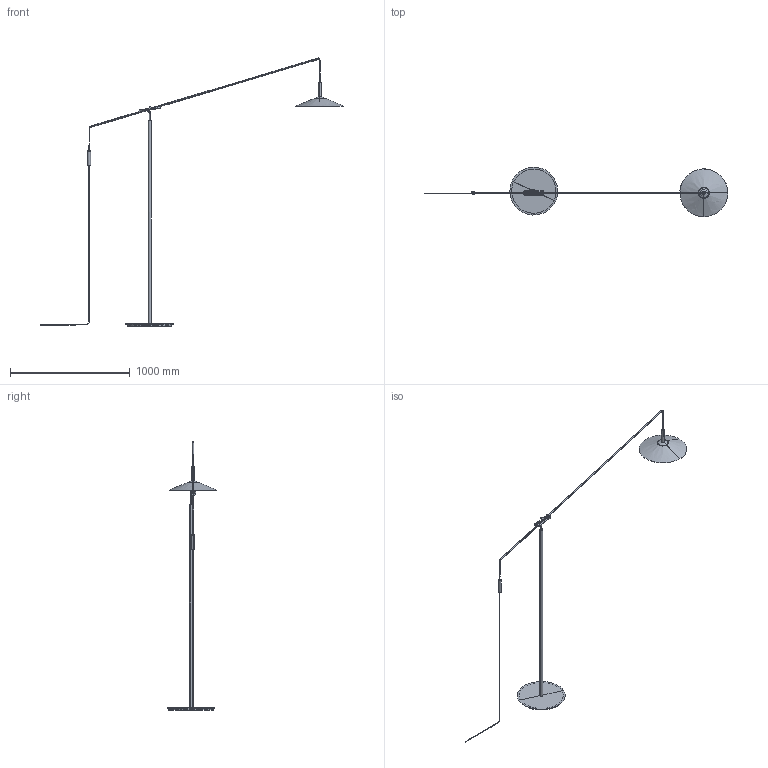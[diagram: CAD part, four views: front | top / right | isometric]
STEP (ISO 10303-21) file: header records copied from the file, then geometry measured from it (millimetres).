
FILE_DESCRIPTION(/* description */ (''),/* implementation_level */ '2;1');
FILE_NAME(/* name */ '1907-1~2',/* time_stamp */ '2020-03-13T09:40:29+01:00',/* author */ (''),/* organization */ (''),/* preprocessor_version */ 'ST-DEVELOPER v16.5',/* originating_system */ '',/* authorisation */ '');
FILE_SCHEMA (('AUTOMOTIVE_DESIGN'));
Length unit declared in the file: millimetre
Products named in the file (2): Document; MET.005363
Assembly tree (1 placements, depth 2):
  Document
    MET.005363
Bounding box: 2536.86 x 417.11 x 2241.9 mm (x, y, z)
Volume: 2573952.7 mm3; surface area: 1450327.8 mm2
Topology: 12 solids, 18 shells, 247 faces, 592 edges, 384 vertices
Faces by surface type: bspline 209, plane 38
Entity records: 12697 total; most frequent: CARTESIAN_POINT 9355, ORIENTED_EDGE 1166, EDGE_CURVE 592, VERTEX_POINT 384, EDGE_LOOP 282, ADVANCED_FACE 247, FACE_OUTER_BOUND 247, B_SPLINE_CURVE_WITH_KNOTS 154
